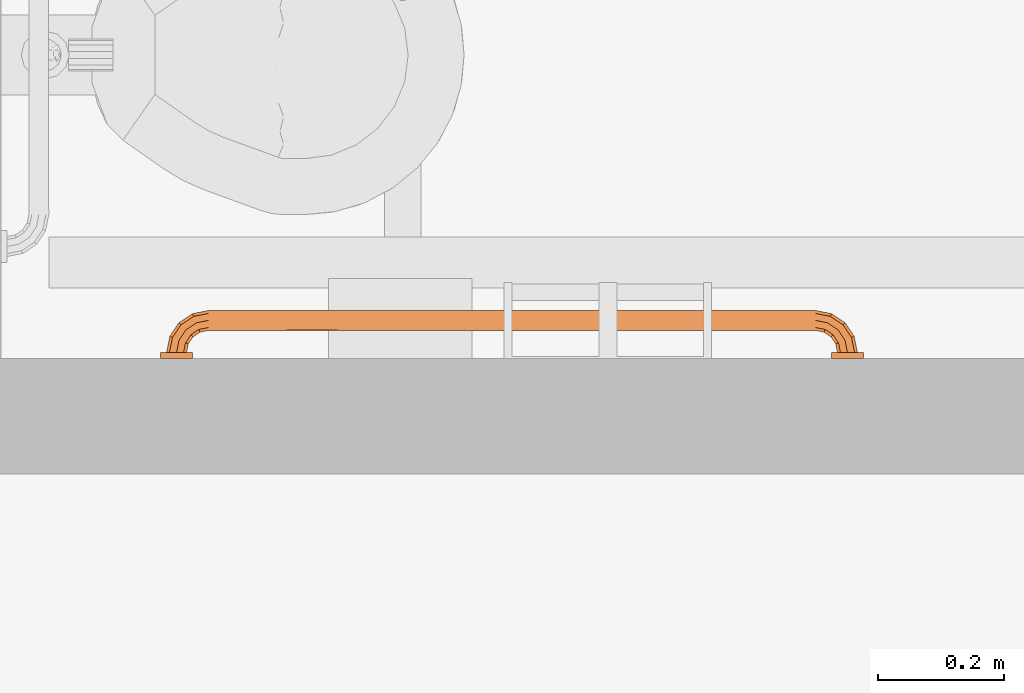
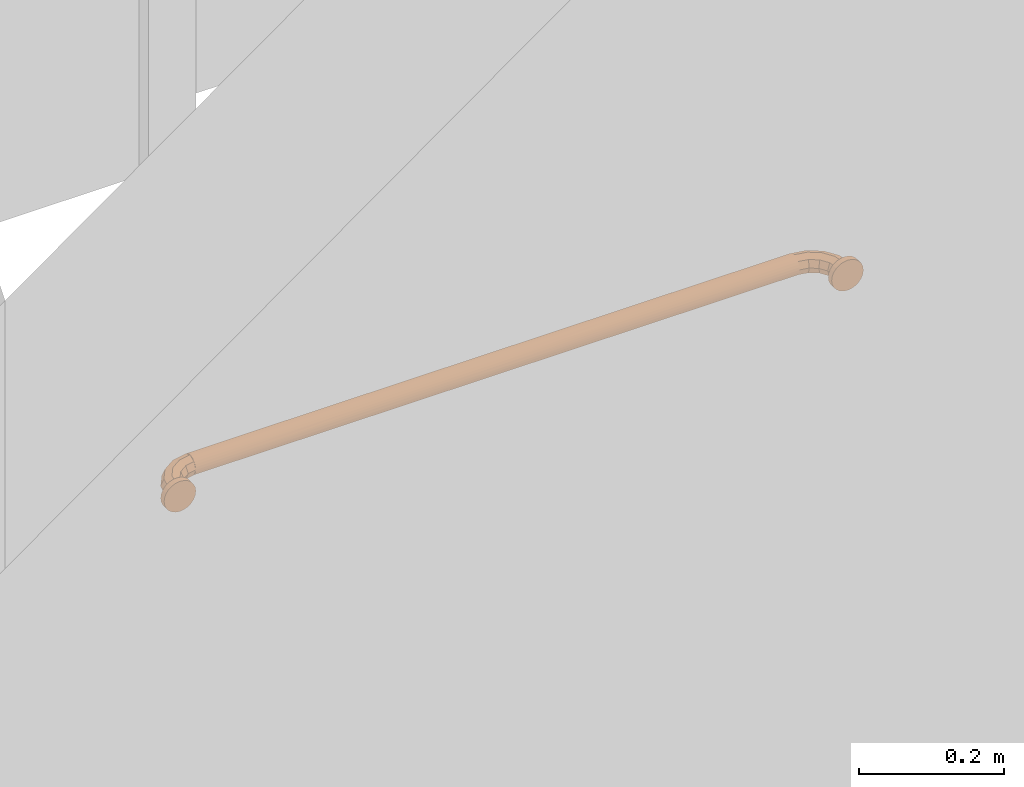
# One storey, part 7 of 142: 1 proxy.
"""IFC2X3 building model written with IfcOpenShell, lengths in feet."""

from ifc_helpers import new_model, entity, si_unit, converted_unit, derived_unit, direction, frame, origin, place, context, subcontext, project, spatial, faceted_brep, source, transform, mapped, type_object, type_shapes, element, save


model = new_model("IFC2X3")

# Units and contexts
model_context = context("Model", 3, precision=0.0001, world=origin(), true_north=direction((6.12303176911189e-17, 1.0)))
body_context = subcontext(model_context, "Body", "Model", "MODEL_VIEW")
ifc_project = project(units=[converted_unit("LENGTHUNIT", "FOOT", entity("IfcRatioMeasure", 0.3048), si_unit("LENGTHUNIT", "METRE"), dimensions=[1, 0, 0, 0, 0, 0, 0]), converted_unit("AREAUNIT", "SQUARE FOOT", entity("IfcRatioMeasure", 0.09290304), si_unit("AREAUNIT", "SQUARE_METRE"), dimensions=[2, 0, 0, 0, 0, 0, 0]), converted_unit("VOLUMEUNIT", "CUBIC FOOT", entity("IfcRatioMeasure", 0.028316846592), si_unit("VOLUMEUNIT", "CUBIC_METRE"), dimensions=[3, 0, 0, 0, 0, 0, 0]), converted_unit("PLANEANGLEUNIT", "DEGREE", entity("IfcRatioMeasure", 0.0174532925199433), si_unit("PLANEANGLEUNIT", "RADIAN"), dimensions=[0, 0, 0, 0, 0, 0, 0]), si_unit("MASSUNIT", "GRAM", prefix="KILO"), derived_unit("MASSDENSITYUNIT", [(si_unit("MASSUNIT", "GRAM", prefix="KILO"), 1), (si_unit("LENGTHUNIT", "METRE"), -3)]), si_unit("TIMEUNIT", "SECOND"), si_unit("FREQUENCYUNIT", "HERTZ"), si_unit("THERMODYNAMICTEMPERATUREUNIT", "DEGREE_CELSIUS"), derived_unit("THERMALTRANSMITTANCEUNIT", [(si_unit("MASSUNIT", "GRAM", prefix="KILO"), 1), (si_unit("THERMODYNAMICTEMPERATUREUNIT", "KELVIN"), -1), (si_unit("TIMEUNIT", "SECOND"), -3)]), derived_unit("VOLUMETRICFLOWRATEUNIT", [(si_unit("LENGTHUNIT", "METRE"), 3), (si_unit("TIMEUNIT", "SECOND"), -1)]), si_unit("ELECTRICCURRENTUNIT", "AMPERE"), si_unit("ELECTRICVOLTAGEUNIT", "VOLT"), si_unit("POWERUNIT", "WATT"), si_unit("FORCEUNIT", "NEWTON"), si_unit("ILLUMINANCEUNIT", "LUX"), si_unit("LUMINOUSFLUXUNIT", "LUMEN"), si_unit("LUMINOUSINTENSITYUNIT", "CANDELA"), derived_unit("USERDEFINED", [(si_unit("MASSUNIT", "GRAM", prefix="KILO"), -1), (si_unit("LENGTHUNIT", "METRE"), -2), (si_unit("TIMEUNIT", "SECOND"), 3), (si_unit("LUMINOUSFLUXUNIT", "LUMEN"), 1)]), derived_unit("LINEARVELOCITYUNIT", [(si_unit("LENGTHUNIT", "METRE"), 1), (si_unit("TIMEUNIT", "SECOND"), -1)]), si_unit("PRESSUREUNIT", "PASCAL"), derived_unit("USERDEFINED", [(si_unit("LENGTHUNIT", "METRE"), -2), (si_unit("MASSUNIT", "GRAM", prefix="KILO"), 1), (si_unit("TIMEUNIT", "SECOND"), -2)])], contexts=[model_context])

# Site, building, storey, space
site_placement = place(None, origin())
site = spatial("IfcSite", under=ifc_project, at=site_placement, Name="Default", CompositionType="ELEMENT")
building_placement = place(site_placement, origin())
building = spatial("IfcBuilding", under=site, at=building_placement, Name="OUTPATIENT / PACT CLINIC (Ch. 265)", CompositionType="ELEMENT")
storey_placement = place(building_placement, origin())
storey = spatial("IfcBuildingStorey", under=building, at=storey_placement, Name="LEVEL 1", CompositionType="ELEMENT", Elevation=0.0)
space_placement = place(storey_placement, origin())
space = spatial("IfcSpace", under=storey, at=space_placement, Name="TNPG1", CompositionType="ELEMENT", InteriorOrExteriorSpace="INTERNAL")

# Proxy
building_element_proxy_type = type_object("IfcBuildingElementProxyType", Name="A5109 - Grab Bar, 1.25 in Dia, SS, 2 Wall, W-C Accessible_Improved", PredefinedType="NOTDEFINED")
shared_shape = source(origin(), body_context, "Body", "Brep", [
    faceted_brep([(0.897113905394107, -0.185229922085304, 0.05208333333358), (0.883020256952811, -0.151204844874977, 0.0368284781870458), (0.833333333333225, -0.161088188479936, 0.0368284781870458), (0.8333333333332, -0.197916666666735, 0.05208333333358), (0.877182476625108, -0.137111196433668, 0.0), (0.833333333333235, -0.145833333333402, 0.0), (0.883020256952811, -0.151204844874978, -0.0368284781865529), (0.833333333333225, -0.161088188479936, -0.0368284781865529), (0.897113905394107, -0.185229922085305, -0.0520833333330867), (0.8333333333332, -0.197916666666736, -0.0520833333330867), (0.911207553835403, -0.219254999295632, -0.0368284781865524), (0.833333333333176, -0.234745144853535, -0.0368284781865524), (0.917045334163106, -0.233348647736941, 0.0), (0.833333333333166, -0.250000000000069, 0.0), (0.911207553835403, -0.219254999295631, 0.0368284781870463), (0.833333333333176, -0.234745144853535, 0.0368284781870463), (0.951184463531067, -0.149101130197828, 0.05208333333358), (0.925142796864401, -0.123059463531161, 0.0368284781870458), (0.914355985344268, -0.112272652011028, 0.0), (0.925142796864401, -0.123059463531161, -0.0368284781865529), (0.951184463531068, -0.149101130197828, -0.0520833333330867), (0.977226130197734, -0.175142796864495, -0.0368284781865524), (0.988012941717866, -0.185929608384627, 0.0), (0.977226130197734, -0.175142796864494, 0.0368284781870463), (0.987313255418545, -0.0950305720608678, 0.05208333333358), (0.953288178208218, -0.0809369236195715, 0.0368284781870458), (0.939194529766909, -0.0750991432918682, 0.0), (0.953288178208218, -0.0809369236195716, -0.0368284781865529), (0.987313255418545, -0.0950305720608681, -0.0520833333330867), (1.02133833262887, -0.109124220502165, -0.0368284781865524), (1.03543198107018, -0.114962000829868, 0.0), (1.02133833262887, -0.109124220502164, 0.0368284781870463), (1.0, -0.0312499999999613, 0.05208333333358), (0.963171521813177, -0.031249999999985, 0.0368284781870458), (0.947916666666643, -0.0312499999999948, 0.0), (0.963171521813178, -0.031249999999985, -0.0368284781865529), (1.0, -0.0312499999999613, -0.0520833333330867), (1.03682847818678, -0.0312499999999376, -0.0368284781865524), (1.05208333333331, -0.0312499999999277, 0.0), (1.03682847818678, -0.0312499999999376, 0.0368284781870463)], [[[0, 1, 2, 3]], [[1, 4, 5, 2]], [[4, 6, 7, 5]], [[6, 8, 9, 7]], [[8, 10, 11, 9]], [[10, 12, 13, 11]], [[12, 14, 15, 13]], [[14, 0, 3, 15]], [[16, 17, 1, 0]], [[17, 18, 4, 1]], [[18, 19, 6, 4]], [[19, 20, 8, 6]], [[20, 21, 10, 8]], [[21, 22, 12, 10]], [[22, 23, 14, 12]], [[23, 16, 0, 14]], [[24, 25, 17, 16]], [[25, 26, 18, 17]], [[26, 27, 19, 18]], [[27, 28, 20, 19]], [[28, 29, 21, 20]], [[29, 30, 22, 21]], [[30, 31, 23, 22]], [[31, 24, 16, 23]], [[32, 33, 25, 24]], [[33, 34, 26, 25]], [[34, 35, 27, 26]], [[35, 36, 28, 27]], [[36, 37, 29, 28]], [[37, 38, 30, 29]], [[38, 39, 31, 30]], [[39, 32, 24, 31]], [[3, 2, 5, 7, 9, 11, 13, 15]], [[39, 38, 37, 36, 35, 34, 33, 32]]]),
    faceted_brep([(0.978431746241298, -0.0312499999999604, -0.0804938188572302), (1.0, -0.0312499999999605, -0.0833333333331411), (1.02156825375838, -0.0312499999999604, -0.08049381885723), (1.04166666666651, -0.0312499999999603, -0.0721687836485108), (1.05892556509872, -0.0312499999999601, -0.0589255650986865), (1.07216878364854, -0.0312499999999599, -0.0416666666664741), (1.08049381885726, -0.0312499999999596, -0.0215682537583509), (1.08333333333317, -0.0312499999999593, 0.0), (1.08049381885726, -0.031249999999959, 0.0215682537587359), (1.07216878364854, -0.0312499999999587, 0.0416666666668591), (1.05892556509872, -0.0312499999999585, 0.0589255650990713), (1.04166666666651, -0.0312499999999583, 0.0721687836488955), (1.02156825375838, -0.0312499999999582, 0.0804938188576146), (1.0, -0.0312499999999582, 0.0833333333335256), (0.978431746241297, -0.0312499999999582, 0.0804938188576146), (0.958333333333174, -0.0312499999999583, 0.0721687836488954), (0.941074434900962, -0.0312499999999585, 0.0589255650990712), (0.927831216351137, -0.0312499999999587, 0.0416666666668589), (0.919506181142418, -0.031249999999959, 0.0215682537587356), (0.916666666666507, -0.0312499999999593, 0.0), (0.919506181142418, -0.0312499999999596, -0.0215682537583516), (0.927831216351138, -0.0312499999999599, -0.0416666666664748), (0.941074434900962, -0.0312499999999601, -0.058925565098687), (0.958333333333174, -0.0312499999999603, -0.0721687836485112), (1.0, 0.0, 0.0833333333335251), (1.02156825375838, 0.0, 0.0804938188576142), (1.04166666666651, 0.0, 0.0721687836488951), (1.05892556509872, 0.0, 0.0589255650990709), (1.07216878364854, 0.0, 0.0416666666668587), (1.08049381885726, 0.0, 0.0215682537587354), (1.08333333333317, 0.0, 0.0), (1.08049381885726, 0.0, -0.0215682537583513), (1.07216878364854, 0.0, -0.0416666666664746), (1.05892556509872, 0.0, -0.0589255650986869), (1.04166666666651, 0.0, -0.0721687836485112), (1.02156825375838, 0.0, -0.0804938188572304), (1.0, 0.0, -0.0833333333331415), (0.978431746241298, 0.0, -0.0804938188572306), (0.958333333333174, 0.0, -0.0721687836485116), (0.941074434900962, 0.0, -0.0589255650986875), (0.927831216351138, 0.0, -0.0416666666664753), (0.919506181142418, 0.0, -0.0215682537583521), (0.916666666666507, 0.0, 0.0), (0.919506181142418, 0.0, 0.0215682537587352), (0.927831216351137, 0.0, 0.0416666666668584), (0.941074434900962, 0.0, 0.0589255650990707), (0.958333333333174, 0.0, 0.072168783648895), (0.978431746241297, 0.0, 0.0804938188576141)], [[[0, 1, 2, 3, 4, 5, 6, 7, 8, 9, 10, 11, 12, 13, 14, 15, 16, 17, 18, 19, 20, 21, 22, 23]], [[24, 25, 26, 27, 28, 29, 30, 31, 32, 33, 34, 35, 36, 37, 38, 39, 40, 41, 42, 43, 44, 45, 46, 47]], [[30, 7, 6, 31]], [[31, 6, 5, 32]], [[34, 33, 4, 3]], [[4, 33, 32, 5]], [[35, 34, 3, 2]], [[35, 2, 1, 36]], [[36, 1, 0, 37]], [[37, 0, 23, 38]], [[40, 39, 22, 21]], [[22, 39, 38, 23]], [[41, 40, 21, 20]], [[41, 20, 19, 42]], [[42, 19, 18, 43]], [[43, 18, 17, 44]], [[46, 45, 16, 15]], [[16, 45, 44, 17]], [[47, 46, 15, 14]], [[47, 14, 13, 24]], [[24, 13, 12, 25]], [[25, 12, 11, 26]], [[28, 27, 10, 9]], [[10, 27, 26, 11]], [[29, 28, 9, 8]], [[29, 8, 7, 30]]]),
    faceted_brep([(-2.4873132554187, -0.0950305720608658, 0.0520833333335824), (-2.45328817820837, -0.0809369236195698, 0.0368284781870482), (-2.46317152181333, -0.0312499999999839, 0.0368284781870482), (-2.50000000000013, -0.0312499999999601, 0.0520833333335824), (-2.43919452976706, -0.0750991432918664, 0.0), (-2.4479166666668, -0.0312499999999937, 0.0), (-2.45328817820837, -0.0809369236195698, -0.0368284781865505), (-2.46317152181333, -0.0312499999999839, -0.0368284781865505), (-2.4873132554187, -0.0950305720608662, -0.0520833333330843), (-2.50000000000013, -0.0312499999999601, -0.0520833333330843), (-2.52133833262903, -0.109124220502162, -0.03682847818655), (-2.53682847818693, -0.0312499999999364, -0.03682847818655), (-2.53543198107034, -0.114962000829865, 0.0), (-2.55208333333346, -0.0312499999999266, 0.0), (-2.52133833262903, -0.109124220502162, 0.0368284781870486), (-2.53682847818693, -0.0312499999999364, 0.0368284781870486), (-2.45118446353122, -0.149101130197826, 0.0520833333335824), (-2.42514279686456, -0.123059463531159, 0.0368284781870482), (-2.41435598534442, -0.112272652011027, 0.0), (-2.42514279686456, -0.123059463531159, -0.0368284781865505), (-2.45118446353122, -0.149101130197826, -0.0520833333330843), (-2.47722613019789, -0.175142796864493, -0.03682847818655), (-2.48801294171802, -0.185929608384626, 0.0), (-2.47722613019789, -0.175142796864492, 0.0368284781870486), (-2.39711390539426, -0.185229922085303, 0.0520833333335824), (-2.38302025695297, -0.151204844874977, 0.0368284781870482), (-2.37718247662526, -0.137111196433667, 0.0), (-2.38302025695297, -0.151204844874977, -0.0368284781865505), (-2.39711390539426, -0.185229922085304, -0.0520833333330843), (-2.41120755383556, -0.219254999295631, -0.03682847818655), (-2.41704533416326, -0.23334864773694, 0.0), (-2.41120755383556, -0.21925499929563, 0.0368284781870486), (-2.33333333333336, -0.197916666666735, 0.0520833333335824), (-2.33333333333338, -0.161088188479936, 0.0368284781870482), (-2.33333333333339, -0.145833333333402, 0.0), (-2.33333333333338, -0.161088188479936, -0.0368284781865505), (-2.33333333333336, -0.197916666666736, -0.0520833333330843), (-2.33333333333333, -0.234745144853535, -0.03682847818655), (-2.33333333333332, -0.250000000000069, 0.0), (-2.33333333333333, -0.234745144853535, 0.0368284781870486)], [[[0, 1, 2, 3]], [[1, 4, 5, 2]], [[4, 6, 7, 5]], [[6, 8, 9, 7]], [[8, 10, 11, 9]], [[10, 12, 13, 11]], [[12, 14, 15, 13]], [[14, 0, 3, 15]], [[16, 17, 1, 0]], [[17, 18, 4, 1]], [[18, 19, 6, 4]], [[19, 20, 8, 6]], [[20, 21, 10, 8]], [[21, 22, 12, 10]], [[22, 23, 14, 12]], [[23, 16, 0, 14]], [[24, 25, 17, 16]], [[25, 26, 18, 17]], [[26, 27, 19, 18]], [[27, 28, 20, 19]], [[28, 29, 21, 20]], [[29, 30, 22, 21]], [[30, 31, 23, 22]], [[31, 24, 16, 23]], [[32, 33, 25, 24]], [[33, 34, 26, 25]], [[34, 35, 27, 26]], [[35, 36, 28, 27]], [[36, 37, 29, 28]], [[37, 38, 30, 29]], [[38, 39, 31, 30]], [[39, 32, 24, 31]], [[3, 2, 5, 7, 9, 11, 13, 15]], [[39, 38, 37, 36, 35, 34, 33, 32]]]),
    faceted_brep([(-2.45833333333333, -0.0312499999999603, -0.0721687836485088), (-2.44107443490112, -0.0312499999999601, -0.0589255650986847), (-2.42783121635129, -0.0312499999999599, -0.0416666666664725), (-2.41950618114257, -0.0312499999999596, -0.0215682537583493), (-2.41666666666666, -0.0312499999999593, 0.0), (-2.41950618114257, -0.031249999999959, 0.021568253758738), (-2.42783121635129, -0.0312499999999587, 0.0416666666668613), (-2.44107443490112, -0.0312499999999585, 0.0589255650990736), (-2.45833333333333, -0.0312499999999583, 0.0721687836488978), (-2.47843174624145, -0.0312499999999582, 0.080493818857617), (-2.49999999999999, -0.0312499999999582, 0.083333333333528), (-2.52156825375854, -0.0312499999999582, 0.080493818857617), (-2.54166666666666, -0.0312499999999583, 0.0721687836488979), (-2.55892556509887, -0.0312499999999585, 0.0589255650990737), (-2.5721687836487, -0.0312499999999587, 0.0416666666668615), (-2.58049381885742, -0.031249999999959, 0.0215682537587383), (-2.58333333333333, -0.0312499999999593, 0.0), (-2.58049381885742, -0.0312499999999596, -0.0215682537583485), (-2.5721687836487, -0.0312499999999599, -0.0416666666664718), (-2.55892556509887, -0.0312499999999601, -0.0589255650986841), (-2.54166666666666, -0.0312499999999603, -0.0721687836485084), (-2.52156825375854, -0.0312499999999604, -0.0804938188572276), (-2.5, -0.0312499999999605, -0.0833333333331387), (-2.47843174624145, -0.0312499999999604, -0.0804938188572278), (-2.47843174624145, 0.0, 0.0804938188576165), (-2.45833333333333, 0.0, 0.0721687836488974), (-2.44107443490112, 0.0, 0.0589255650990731), (-2.42783121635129, 0.0, 0.0416666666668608), (-2.41950618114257, 0.0, 0.0215682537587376), (-2.41666666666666, 0.0, 0.0), (-2.41950618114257, 0.0, -0.0215682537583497), (-2.42783121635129, 0.0, -0.0416666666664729), (-2.44107443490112, 0.0, -0.0589255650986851), (-2.45833333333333, 0.0, -0.0721687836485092), (-2.47843174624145, 0.0, -0.0804938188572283), (-2.5, 0.0, -0.0833333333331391), (-2.52156825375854, 0.0, -0.0804938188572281), (-2.54166666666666, 0.0, -0.0721687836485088), (-2.55892556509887, 0.0, -0.0589255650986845), (-2.5721687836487, 0.0, -0.0416666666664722), (-2.58049381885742, 0.0, -0.0215682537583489), (-2.58333333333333, 0.0, 0.0), (-2.58049381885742, 0.0, 0.0215682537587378), (-2.5721687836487, 0.0, 0.0416666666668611), (-2.55892556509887, 0.0, 0.0589255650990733), (-2.54166666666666, 0.0, 0.0721687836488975), (-2.52156825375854, 0.0, 0.0804938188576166), (-2.49999999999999, 0.0, 0.0833333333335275)], [[[0, 1, 2, 3, 4, 5, 6, 7, 8, 9, 10, 11, 12, 13, 14, 15, 16, 17, 18, 19, 20, 21, 22, 23]], [[24, 25, 26, 27, 28, 29, 30, 31, 32, 33, 34, 35, 36, 37, 38, 39, 40, 41, 42, 43, 44, 45, 46, 47]], [[40, 17, 16, 41]], [[39, 18, 17, 40]], [[20, 19, 38, 37]], [[39, 38, 19, 18]], [[21, 20, 37, 36]], [[22, 21, 36, 35]], [[34, 23, 22, 35]], [[33, 0, 23, 34]], [[2, 1, 32, 31]], [[33, 32, 1, 0]], [[3, 2, 31, 30]], [[4, 3, 30, 29]], [[28, 5, 4, 29]], [[27, 6, 5, 28]], [[8, 7, 26, 25]], [[27, 26, 7, 6]], [[9, 8, 25, 24]], [[10, 9, 24, 47]], [[46, 11, 10, 47]], [[45, 12, 11, 46]], [[14, 13, 44, 43]], [[45, 44, 13, 12]], [[15, 14, 43, 42]], [[16, 15, 42, 41]]]),
    faceted_brep([(0.833333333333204, -0.171875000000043, 0.0451054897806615), (0.833333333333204, -0.18443650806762, 0.0503086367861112), (0.833333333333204, -0.19791666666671, 0.0520833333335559), (0.833333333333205, -0.211396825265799, 0.0503086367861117), (0.833333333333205, -0.223958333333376, 0.0451054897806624), (0.833333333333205, -0.234745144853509, 0.0368284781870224), (0.833333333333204, -0.24302215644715, 0.0260416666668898), (0.833333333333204, -0.248225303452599, 0.0134801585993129), (0.833333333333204, -0.250000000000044, 0.0), (0.833333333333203, -0.2482253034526, -0.0134801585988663), (0.833333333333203, -0.24302215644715, -0.0260416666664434), (0.833333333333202, -0.23474514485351, -0.0368284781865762), (0.833333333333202, -0.223958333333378, -0.0451054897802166), (0.833333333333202, -0.211396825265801, -0.0503086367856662), (0.833333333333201, -0.197916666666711, -0.0520833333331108), (0.833333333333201, -0.184436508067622, -0.0503086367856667), (0.833333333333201, -0.171875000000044, -0.0451054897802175), (0.833333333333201, -0.161088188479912, -0.0368284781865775), (0.833333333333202, -0.152811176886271, -0.026041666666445), (0.833333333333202, -0.147608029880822, -0.013480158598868), (0.833333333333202, -0.145833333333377, 0.0), (0.833333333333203, -0.147608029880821, 0.0134801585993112), (0.833333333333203, -0.15281117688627, 0.0260416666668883), (0.833333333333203, -0.16108818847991, 0.0368284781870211), (-2.33333333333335, -0.250000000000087, 0.0), (-2.33333333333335, -0.248225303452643, 0.0134801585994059), (-2.33333333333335, -0.243022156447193, 0.0260416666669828), (-2.33333333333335, -0.234745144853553, 0.0368284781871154), (-2.33333333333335, -0.22395833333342, 0.0451054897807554), (-2.33333333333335, -0.211396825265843, 0.0503086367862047), (-2.33333333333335, -0.197916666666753, 0.0520833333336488), (-2.33333333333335, -0.184436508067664, 0.0503086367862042), (-2.33333333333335, -0.171875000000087, 0.0451054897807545), (-2.33333333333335, -0.161088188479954, 0.0368284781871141), (-2.33333333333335, -0.152811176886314, 0.0260416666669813), (-2.33333333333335, -0.147608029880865, 0.0134801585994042), (-2.33333333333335, -0.145833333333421, 0.0), (-2.33333333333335, -0.147608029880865, -0.013480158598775), (-2.33333333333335, -0.152811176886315, -0.026041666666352), (-2.33333333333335, -0.161088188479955, -0.0368284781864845), (-2.33333333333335, -0.171875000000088, -0.0451054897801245), (-2.33333333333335, -0.184436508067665, -0.0503086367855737), (-2.33333333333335, -0.197916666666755, -0.0520833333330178), (-2.33333333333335, -0.211396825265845, -0.0503086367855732), (-2.33333333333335, -0.223958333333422, -0.0451054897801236), (-2.33333333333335, -0.234745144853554, -0.0368284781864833), (-2.33333333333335, -0.243022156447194, -0.0260416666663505), (-2.33333333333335, -0.248225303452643, -0.0134801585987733), (-1.67492969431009, -0.166210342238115, -0.0413204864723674), (-0.311848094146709, -0.148126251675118, -0.0152835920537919), (0.196503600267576, -0.149797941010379, -0.0199314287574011), (-0.276748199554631, -0.151866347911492, -0.0243319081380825), (0.29993908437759, -0.18649594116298, 0.0508157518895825), (0.0101222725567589, -0.177985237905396, 0.0481187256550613), (-1.67492969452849, -0.14979794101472, -0.0199314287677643), (-1.42456747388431, -0.156596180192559, -0.0317063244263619), (-0.755977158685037, -0.156060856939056, 0.0309962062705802), (-1.23645507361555, -0.151490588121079, 0.0236070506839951), (-1.42456747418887, -0.156596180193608, 0.0317063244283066), (-1.67492969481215, -0.166210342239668, 0.0413204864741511), (0.196503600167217, -0.166210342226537, -0.0413204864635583), (0.196503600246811, -0.166210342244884, 0.0413204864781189), (-1.67492969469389, -0.146278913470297, 0.00679823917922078), (-1.42456747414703, -0.146278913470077, -0.00679823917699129), (-1.42046336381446, -0.197916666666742, -0.0520833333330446), (-1.78579026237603, -0.188851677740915, -0.0512883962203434), (-1.30622143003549, -0.188929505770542, -0.0513020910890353), (0.353111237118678, -0.188470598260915, -0.0512195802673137), (0.376897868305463, -0.197916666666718, -0.0520833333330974), (0.162869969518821, -0.197916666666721, -0.0520833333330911), (-1.42044746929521, -0.19791666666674, 0.052083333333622), (-1.79525717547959, -0.189086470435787, 0.0513293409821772), (0.0101222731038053, -0.156596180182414, -0.0317063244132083), (-0.543829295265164, -0.166210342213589, -0.041320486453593), (-0.0754325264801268, -0.146278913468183, -0.00679823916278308), (-0.0333583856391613, -0.146886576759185, 0.0104213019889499), (0.0101222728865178, -0.177985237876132, -0.0481187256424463), (-0.172360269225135, -0.188469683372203, -0.0512194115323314), (-1.72253061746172, -0.149797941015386, 0.019931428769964), (-0.750000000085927, -0.149797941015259, -0.019931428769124), (-0.711016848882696, -0.156707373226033, -0.0318507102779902), (-0.863636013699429, -0.146048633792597, 0.00473083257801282), (-1.10937949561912, -0.163299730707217, 0.0389145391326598), (-0.7737053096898, -0.146416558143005, -0.00777254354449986), (0.344326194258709, -0.148857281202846, 0.0174885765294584), (-1.2362653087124, -0.147768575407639, 0.0140656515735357), (-1.89605715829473, -0.177985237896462, -0.0481187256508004), (-0.743946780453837, -0.175651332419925, -0.0470842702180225), (-0.543829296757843, -0.166210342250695, 0.0413204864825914), (-1.20643546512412, -0.188019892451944, 0.051134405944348), (-0.992408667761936, -0.197916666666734, 0.0520833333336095), (-0.53595087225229, -0.197916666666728, 0.0520833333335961), (-0.662425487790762, -0.180266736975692, 0.0490015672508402), (-1.33497324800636, -0.177985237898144, 0.0481187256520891), (-1.87503514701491, -0.179059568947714, 0.0485498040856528), (0.0101222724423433, -0.156596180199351, 0.0317063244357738), (-0.242367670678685, -0.187420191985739, 0.0510146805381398), (-1.10937949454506, -0.168131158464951, -0.0427258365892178), (-0.842730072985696, -0.186586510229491, -0.0508360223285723), (-0.136483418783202, -0.150566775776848, 0.0216947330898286), (-0.750000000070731, -0.149797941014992, 0.0199314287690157), (-1.33497324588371, -0.177985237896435, -0.0481187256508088), (-0.0795375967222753, -0.197916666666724, -0.052083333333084), (-0.50759339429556, -0.19791666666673, -0.0520833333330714), (-0.535973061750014, -0.197916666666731, -0.0520833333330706), (-0.992408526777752, -0.197916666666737, -0.0520833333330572), (-0.0795228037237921, -0.197916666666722, 0.0520833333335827), (0.162872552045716, -0.197916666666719, 0.0520833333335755), (0.376905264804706, -0.197916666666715, 0.0520833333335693), (-0.507588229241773, -0.197916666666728, 0.0520833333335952), (-1.67492969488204, -0.229622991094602, 0.0413204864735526), (-0.311848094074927, -0.247707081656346, 0.0152835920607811), (0.196503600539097, -0.246035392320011, 0.0199314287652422), (-0.27674819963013, -0.243966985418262, 0.0243319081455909), (0.299939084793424, -0.209337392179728, -0.050815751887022), (0.0101222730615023, -0.217848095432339, -0.0481187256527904), (-1.67492969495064, -0.246035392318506, 0.0199314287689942), (-1.42456747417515, -0.239237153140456, 0.0317063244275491), (-0.755977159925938, -0.239772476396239, -0.0309962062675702), (-1.23645507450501, -0.244342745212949, -0.0236070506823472), (-1.42456747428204, -0.239237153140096, -0.0317063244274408), (-1.67492969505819, -0.229622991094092, -0.0413204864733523), (0.196503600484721, -0.229622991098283, 0.0413204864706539), (0.196503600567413, -0.229622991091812, -0.0413204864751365), (-1.67492969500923, -0.249554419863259, -0.00679823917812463), (-1.42456747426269, -0.249554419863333, 0.00679823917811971), (-1.7857902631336, -0.206981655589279, 0.0512883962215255), (-1.30622143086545, -0.206903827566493, 0.0513020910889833), (0.353111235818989, -0.207362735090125, 0.05121958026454), (-1.79525717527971, -0.206746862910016, -0.0513293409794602), (0.010122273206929, -0.23923715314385, 0.0317063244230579), (-0.543829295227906, -0.229622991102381, 0.0413204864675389), (-0.0754325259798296, -0.249554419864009, 0.00679823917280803), (-0.0333583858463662, -0.248946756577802, -0.0104213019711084), (0.0101222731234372, -0.217848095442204, 0.0481187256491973), (-0.172360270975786, -0.207363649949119, 0.0512194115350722), (-1.72253061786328, -0.246035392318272, -0.0199314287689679), (-0.750000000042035, -0.246035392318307, 0.0199314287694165), (-0.711016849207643, -0.239125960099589, 0.0318507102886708), (-0.863636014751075, -0.24978469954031, -0.0047308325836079), (-1.10937949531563, -0.232533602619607, -0.0389145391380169), (-0.773705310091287, -0.249416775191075, 0.00777254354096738), (0.344326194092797, -0.246976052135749, -0.0174885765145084), (-1.23626530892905, -0.248064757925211, -0.0140656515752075), (-1.89605715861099, -0.217848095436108, 0.0481187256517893), (-0.743946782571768, -0.220182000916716, 0.0470842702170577), (-0.543829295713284, -0.229622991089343, -0.0413204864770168), (-1.20643546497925, -0.207813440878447, -0.0511344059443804), (-0.662425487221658, -0.215566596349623, -0.0490015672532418), (-1.33497324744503, -0.217848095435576, -0.0481187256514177), (-1.87503514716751, -0.216773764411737, -0.0485498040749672), (0.0101222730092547, -0.239237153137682, -0.0317063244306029), (-0.24236766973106, -0.208413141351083, -0.0510146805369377), (-1.10937949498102, -0.227702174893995, 0.0427258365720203), (-0.842730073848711, -0.209246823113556, 0.0508360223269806), (-0.136483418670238, -0.245266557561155, -0.0216947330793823), (-0.75000000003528, -0.246035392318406, -0.0199314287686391), (-1.33497324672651, -0.217848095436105, 0.0481187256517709)], [[[0, 1, 2, 3, 4, 5, 6, 7, 8, 9, 10, 11, 12, 13, 14, 15, 16, 17, 18, 19, 20, 21, 22, 23]], [[24, 25, 26, 27, 28, 29, 30, 31, 32, 33, 34, 35, 36, 37, 38, 39, 40, 41, 42, 43, 44, 45, 46, 47]], [[39, 48, 40]], [[49, 50, 51]], [[52, 1, 53]], [[54, 38, 37]], [[54, 55, 38]], [[56, 57, 58]], [[33, 32, 59]], [[16, 60, 17]], [[61, 0, 23]], [[36, 62, 63]], [[64, 65, 66]], [[37, 36, 63]], [[48, 39, 55]], [[55, 39, 38]], [[34, 33, 58]], [[67, 14, 68, 69]], [[30, 70, 71]], [[72, 60, 73]], [[72, 18, 17]], [[20, 74, 75]], [[19, 18, 50]], [[76, 60, 16]], [[50, 18, 72]], [[69, 77, 67]], [[78, 62, 35]], [[79, 80, 55]], [[81, 75, 74]], [[59, 58, 33]], [[82, 58, 59]], [[63, 62, 81]], [[62, 36, 35]], [[76, 16, 15]], [[83, 63, 81]], [[53, 1, 0]], [[19, 74, 20]], [[84, 22, 21]], [[85, 62, 78]], [[86, 41, 40]], [[76, 77, 87]], [[61, 88, 53]], [[89, 70, 90, 91]], [[92, 93, 89]], [[94, 31, 71]], [[41, 86, 65]], [[23, 95, 61]], [[96, 53, 92]], [[80, 72, 73]], [[79, 55, 54]], [[73, 87, 97]], [[95, 23, 22]], [[98, 87, 77]], [[99, 84, 75]], [[56, 100, 57]], [[92, 88, 93]], [[96, 52, 53]], [[91, 96, 92]], [[41, 65, 42]], [[70, 89, 71]], [[93, 94, 71]], [[88, 92, 53]], [[35, 34, 78]], [[62, 85, 81]], [[75, 81, 100]], [[63, 83, 79]], [[99, 75, 100]], [[75, 21, 20]], [[37, 63, 54]], [[79, 54, 63]], [[55, 80, 97]], [[86, 48, 101]], [[94, 59, 32]], [[82, 93, 88]], [[93, 71, 89]], [[30, 71, 31]], [[51, 50, 72]], [[74, 19, 50]], [[73, 60, 76]], [[72, 17, 60]], [[88, 61, 95]], [[77, 69, 102, 103]], [[53, 0, 61]], [[34, 58, 78]], [[78, 57, 85]], [[59, 94, 93]], [[32, 31, 94]], [[98, 77, 103]], [[67, 76, 15]], [[98, 103, 104, 105, 64]], [[98, 101, 87]], [[97, 101, 48]], [[76, 87, 73]], [[101, 97, 87]], [[55, 97, 48]], [[76, 67, 77]], [[14, 67, 15]], [[89, 91, 92]], [[52, 106, 107, 108, 2]], [[52, 2, 1]], [[106, 52, 96]], [[96, 91, 109, 106]], [[57, 78, 58]], [[81, 85, 100]], [[56, 58, 82]], [[100, 85, 57]], [[48, 86, 40]], [[98, 66, 101]], [[101, 65, 86]], [[42, 65, 64]], [[101, 66, 65]], [[98, 64, 66]], [[81, 74, 83]], [[49, 83, 74]], [[93, 82, 59]], [[88, 95, 56]], [[88, 56, 82]], [[99, 56, 95]], [[80, 79, 51]], [[97, 80, 73]], [[56, 99, 100]], [[84, 95, 22]], [[84, 99, 95]], [[21, 75, 84]], [[80, 51, 72]], [[49, 51, 79]], [[83, 49, 79]], [[50, 49, 74]], [[27, 110, 28]], [[111, 112, 113]], [[114, 13, 115]], [[116, 26, 25]], [[116, 117, 26]], [[118, 119, 120]], [[45, 44, 121]], [[4, 122, 5]], [[123, 12, 11]], [[24, 124, 125]], [[70, 126, 127]], [[25, 24, 125]], [[110, 27, 117]], [[117, 27, 26]], [[46, 45, 120]], [[128, 2, 108, 107]], [[42, 64, 129]], [[130, 122, 131]], [[130, 6, 5]], [[8, 132, 133]], [[7, 6, 112]], [[134, 122, 4]], [[112, 6, 130]], [[107, 135, 128]], [[136, 124, 47]], [[137, 138, 117]], [[139, 133, 132]], [[121, 120, 45]], [[140, 120, 121]], [[125, 124, 139]], [[124, 24, 47]], [[134, 4, 3]], [[141, 125, 139]], [[115, 13, 12]], [[7, 132, 8]], [[142, 10, 9]], [[143, 124, 136]], [[144, 29, 28]], [[134, 135, 145]], [[123, 146, 115]], [[147, 64, 105, 104]], [[148, 149, 147]], [[150, 43, 129]], [[29, 144, 126]], [[11, 151, 123]], [[152, 115, 148]], [[138, 130, 131]], [[137, 117, 116]], [[131, 145, 153]], [[151, 11, 10]], [[154, 145, 135]], [[155, 142, 133]], [[118, 156, 119]], [[148, 146, 149]], [[152, 114, 115]], [[104, 152, 148]], [[29, 126, 30]], [[64, 147, 129]], [[149, 150, 129]], [[146, 148, 115]], [[47, 46, 136]], [[124, 143, 139]], [[133, 139, 156]], [[125, 141, 137]], [[155, 133, 156]], [[133, 9, 8]], [[25, 125, 116]], [[137, 116, 125]], [[117, 138, 153]], [[144, 110, 157]], [[131, 122, 134]], [[150, 121, 44]], [[140, 149, 146]], [[149, 129, 147]], [[42, 129, 43]], [[113, 112, 130]], [[132, 7, 112]], [[130, 5, 122]], [[146, 123, 151]], [[135, 107, 106, 109]], [[115, 12, 123]], [[46, 120, 136]], [[136, 119, 143]], [[121, 150, 149]], [[44, 43, 150]], [[154, 135, 109]], [[128, 134, 3]], [[154, 109, 91, 90, 70]], [[154, 157, 145]], [[153, 157, 110]], [[134, 145, 131]], [[157, 153, 145]], [[117, 153, 110]], [[134, 128, 135]], [[2, 128, 3]], [[147, 104, 148]], [[114, 102, 69, 68, 14]], [[114, 14, 13]], [[102, 114, 152]], [[152, 104, 103, 102]], [[119, 136, 120]], [[139, 143, 156]], [[118, 120, 140]], [[156, 143, 119]], [[110, 144, 28]], [[154, 127, 157]], [[157, 126, 144]], [[30, 126, 70]], [[157, 127, 126]], [[154, 70, 127]], [[139, 132, 141]], [[111, 141, 132]], [[149, 140, 121]], [[146, 151, 118]], [[146, 118, 140]], [[155, 118, 151]], [[138, 137, 113]], [[153, 138, 131]], [[118, 155, 156]], [[142, 151, 10]], [[142, 155, 151]], [[9, 133, 142]], [[138, 113, 130]], [[111, 113, 137]], [[141, 111, 137]], [[112, 111, 132]]]),
])
type_shapes(building_element_proxy_type, [shared_shape])
proxy_placement = place(space_placement, frame((393.88011654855, -952.649655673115, 3.0), z_axis=(0.0, 0.0, 1.0), x_axis=(-1.0, 0.0, 0.0)))
element("IfcBuildingElementProxy", 1, at=proxy_placement, inside=space, type_object=building_element_proxy_type, Name="A5109 - Grab Bar, 1.25 in Dia, SS, 2 Wall, W-C Accessible_Improved1:A5109 - Grab Bar, 1.25 in Dia, SS, 2 Wall, W-C Accessible_Improved", ObjectType="A5109 - Grab Bar, 1.25 in Dia, SS, 2 Wall, W-C Accessible_Improved", context=body_context, shape_type="MappedRepresentation", body=[
    mapped(shared_shape, transform((0.0, 0.0, 0.0), scale=1.0)),
])

save(model, "model.ifc")
